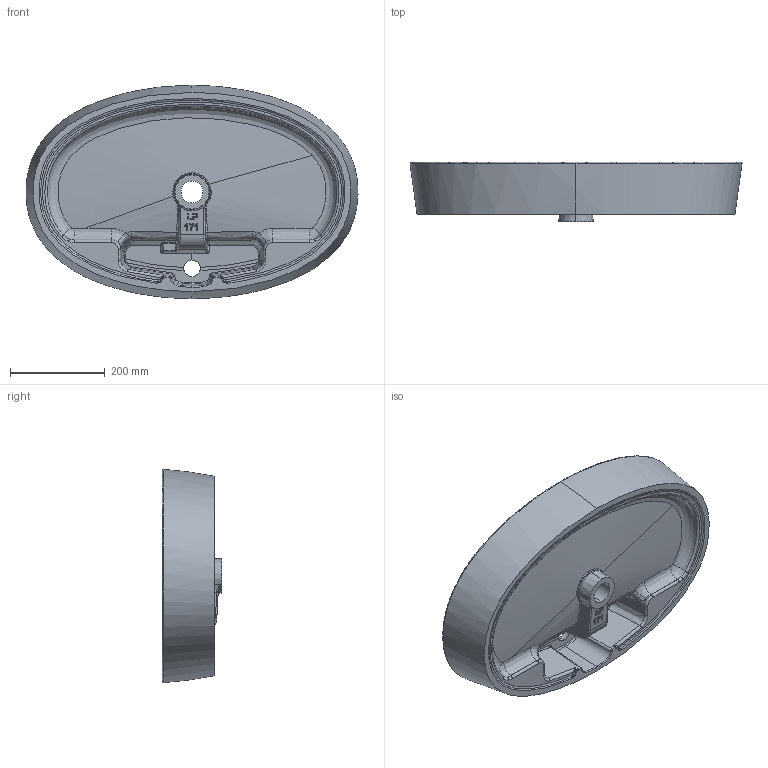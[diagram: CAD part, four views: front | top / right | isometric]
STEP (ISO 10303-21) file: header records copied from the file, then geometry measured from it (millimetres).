
FILE_DESCRIPTION (( 'STEP AP203' ), '1' );
FILE_NAME ('LP171.STEP', '2021-09-10T11:27:07', ( '' ), ( '' ), 'SwSTEP 2.0', 'SolidWorks 2020', '' );
FILE_SCHEMA (( 'CONFIG_CONTROL_DESIGN' ));
Products named in the file (1): LP171
Bounding box: 699.62 x 125.9 x 449.72 mm (x, y, z)
Volume: 8282633.9 mm3; surface area: 858758.3 mm2
Topology: 2 solids, 2 shells, 462 faces, 1097 edges, 619 vertices
Faces by surface type: bspline 181, cylinder 129, plane 63, sphere 48, torus 35, cone 6
Entity records: 38713 total; most frequent: CARTESIAN_POINT 29419, ORIENTED_EDGE 2114, DIRECTION 1691, EDGE_CURVE 1057, AXIS2_PLACEMENT_3D 705, VERTEX_POINT 605, EDGE_LOOP 474, FACE_OUTER_BOUND 462
